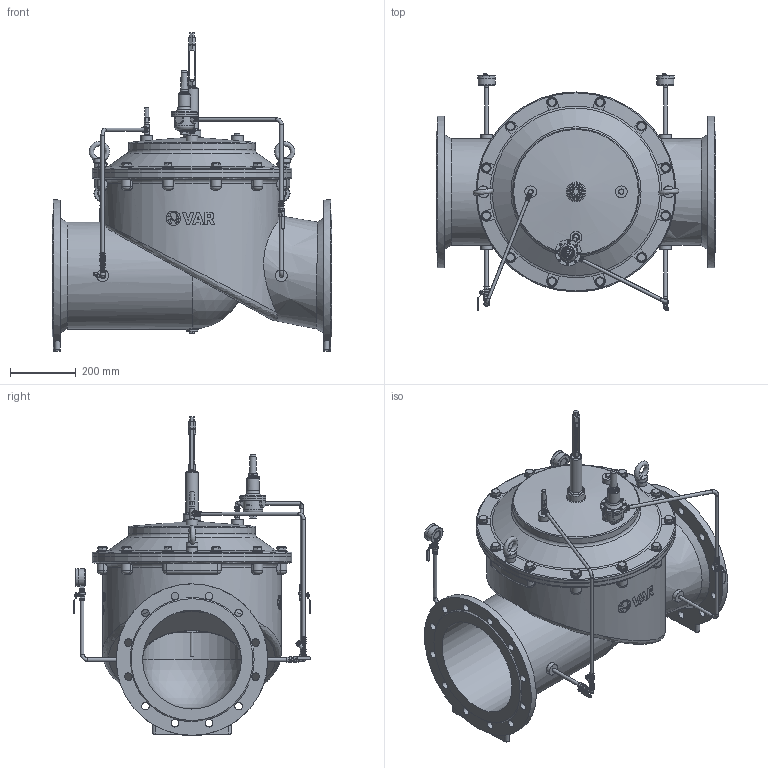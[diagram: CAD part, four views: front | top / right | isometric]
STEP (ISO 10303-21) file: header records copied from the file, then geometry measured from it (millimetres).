
FILE_DESCRIPTION(('STEP AP242'), '1');
FILE_NAME('PICO C200', '', ('UNSPECIFIED'), ('UNSPECIFIED'), 'C3D Converter', 'C3D Toolkit', '');
FILE_SCHEMA(('AP242_MANAGED_MODEL_BASED_3D_ENGINEERING_MIM_LF { 1 0 10303 442 1 1 4 }'));
Length unit declared in the file: millimetre
Products named in the file (26): М; ВР.752218.002
Assembly tree (69 placements, depth 3):
  (unnamed)
    (unnamed)
    (unnamed)
    (unnamed)
    (unnamed)
    (unnamed)
    (unnamed)
    (unnamed)
    М  x2
    (unnamed)
    (unnamed)  x4
    ВР.752218.002  x2
    (unnamed)  x6
    (unnamed)
    (unnamed)  x4
    (unnamed)
    (unnamed)
      (unnamed)
      (unnamed)
      (unnamed)  x8
      (unnamed)
    (unnamed)
    (unnamed)  x2
    (unnamed)  x2
    (unnamed)  x12
    (unnamed)  x12
Bounding box: 850 x 720 x 968 mm (x, y, z)
Volume: 36936624.3 mm3; surface area: 5737996.5 mm2
Topology: 75 solids, 77 shells, 3028 faces, 7633 edges, 4987 vertices
Faces by surface type: plane 1664, cylinder 669, cone 322, extrusion 157, torus 121, bspline 84, sphere 11
Full cylindrical faces by diameter (mm): 0.518 x2, 1.2 x1, 2.5 x2, 3 x8, 4 x25, 4.2 x4, 4.5 x4, 5 x2, 6 x8, 7 x8, 8 x5, 8.7 x1, 9 x16, 9.3 x6, 9.5 x2, 10 x4, 10.2 x4, 10.8 x2, 11 x18, 11.16 x4, 11.179 x6, 11.22 x4, 11.4 x2, 11.577 x2, 12 x10, 12.5 x3, 12.573 x15, 13.157 x2, 13.8 x4, 14.4 x5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
Entity records: 120833 total; most frequent: CARTESIAN_POINT 68528, ORIENTED_EDGE 8382, DIRECTION 7654, EDGE_CURVE 4191, VERTEX_POINT 2984, AXIS2_PLACEMENT_3D 2848, EDGE_LOOP 2565, FACE_BOUND 2035
